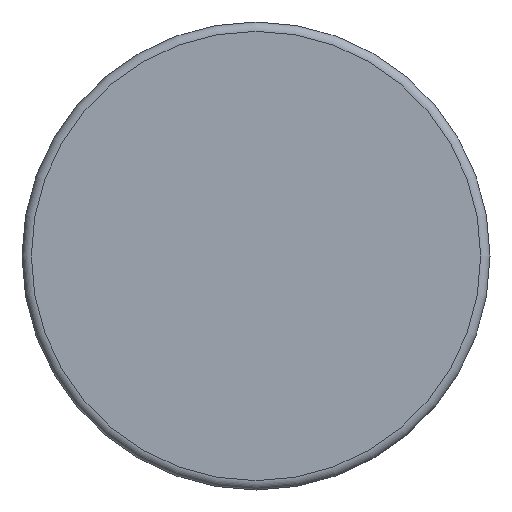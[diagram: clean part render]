
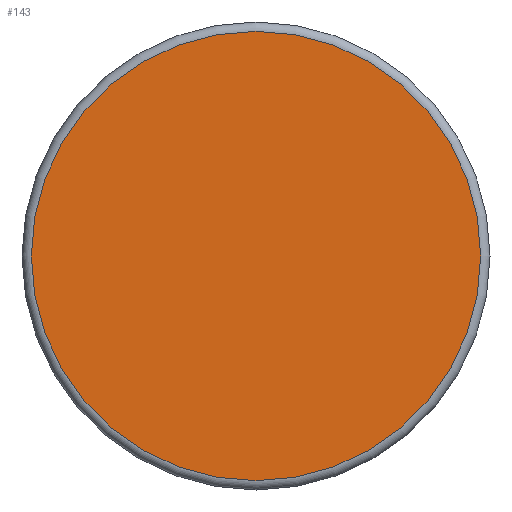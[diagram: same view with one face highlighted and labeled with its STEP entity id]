
A CAD part, front view. The second image highlights one B-rep face of the part: STEP entity #143.
In plain terms, the highlighted planar face has unit normal (0, -1, 0).
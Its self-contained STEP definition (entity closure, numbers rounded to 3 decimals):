
#143 = ADVANCED_FACE( '', ( #297 ), #298, .F. );
#297 = FACE_OUTER_BOUND( '', #497, .T. );
#298 = PLANE( '', #498 );
#497 = EDGE_LOOP( '', ( #692 ) );
#498 = AXIS2_PLACEMENT_3D( '', #693, #694, #695 );
#692 = ORIENTED_EDGE( '', *, *, #1116, .T. );
#693 = CARTESIAN_POINT( '', ( 24., 0., 0. ) );
#694 = DIRECTION( '', ( 0., 1., 0. ) );
#695 = DIRECTION( '', ( 0., 0., 1. ) );
#1116 = EDGE_CURVE( '', #1280, #1280, #1281, .T. );
#1280 = VERTEX_POINT( '', #1526 );
#1281 = CIRCLE( '', #1527, 24. );
#1526 = CARTESIAN_POINT( '', ( 0., 0., -24. ) );
#1527 = AXIS2_PLACEMENT_3D( '', #1992, #1993, #1994 );
#1992 = CARTESIAN_POINT( '', ( 0., 0., 0. ) );
#1993 = DIRECTION( '', ( 0., -1., 0. ) );
#1994 = DIRECTION( '', ( 0., 0., -1. ) );
